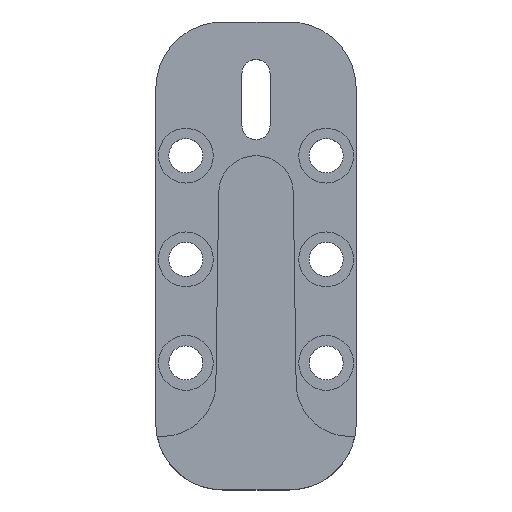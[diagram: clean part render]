
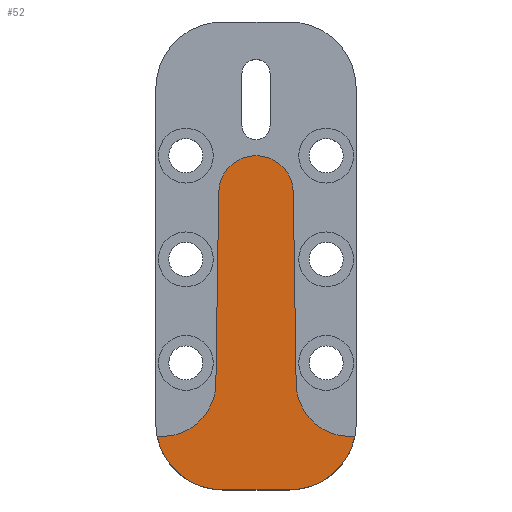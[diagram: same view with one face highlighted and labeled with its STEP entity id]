
A CAD part, top view. The second image highlights one B-rep face of the part: STEP entity #52.
In plain terms, the highlighted planar face has unit normal (0, 0, 1).
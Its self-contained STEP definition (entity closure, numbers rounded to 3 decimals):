
#19 = CIRCLE ( 'NONE', #66, 10. ) ;
#52 = ADVANCED_FACE ( 'NONE', ( #1538 ), #309, .F. ) ;
#66 = AXIS2_PLACEMENT_3D ( 'NONE', #1503, #712, #1632 ) ;
#114 = AXIS2_PLACEMENT_3D ( 'NONE', #1451, #655, #1580 ) ;
#121 = VERTEX_POINT ( 'NONE', #1644 ) ;
#136 = VECTOR ( 'NONE', #1213, 1000. ) ;
#172 = CARTESIAN_POINT ( 'NONE',  ( 14.001, 18., 10. ) ) ;
#201 = AXIS2_PLACEMENT_3D ( 'NONE', #258, #1193, #397 ) ;
#215 = VERTEX_POINT ( 'NONE', #1316 ) ;
#217 = AXIS2_PLACEMENT_3D ( 'NONE', #977, #843, #1238 ) ;
#221 = CARTESIAN_POINT ( 'NONE',  ( 14.001, 26., 10. ) ) ;
#258 = CARTESIAN_POINT ( 'NONE',  ( 5., 20., 10. ) ) ;
#274 = DIRECTION ( 'NONE',  ( -1., 0., 0. ) ) ;
#279 = CARTESIAN_POINT ( 'NONE',  ( 5.579, 54.501, 10. ) ) ;
#289 = DIRECTION ( 'NONE',  ( 0., 0., 1. ) ) ;
#293 = AXIS2_PLACEMENT_3D ( 'NONE', #1089, #289, #1219 ) ;
#307 = CARTESIAN_POINT ( 'NONE',  ( 6.002, 25.882, 10. ) ) ;
#309 = PLANE ( 'NONE',  #217 ) ;
#350 = DIRECTION ( 'NONE',  ( 1., 0., 0. ) ) ;
#358 = ORIENTED_EDGE ( 'NONE', *, *, #1174, .F. ) ;
#397 = DIRECTION ( 'NONE',  ( -1., 0., 0. ) ) ;
#402 = LINE ( 'NONE', #817, #1462 ) ;
#409 = LINE ( 'NONE', #172, #1121 ) ;
#453 = EDGE_CURVE ( 'NONE', #632, #859, #409, .T. ) ;
#492 = EDGE_CURVE ( 'NONE', #939, #1264, #19, .T. ) ;
#499 = VERTEX_POINT ( 'NONE', #307 ) ;
#544 = ORIENTED_EDGE ( 'NONE', *, *, #973, .T. ) ;
#582 = ORIENTED_EDGE ( 'NONE', *, *, #1254, .T. ) ;
#593 = CARTESIAN_POINT ( 'NONE',  ( -14.798, 18., 10. ) ) ;
#632 = VERTEX_POINT ( 'NONE', #876 ) ;
#655 = DIRECTION ( 'NONE',  ( 0., 0., -1. ) ) ;
#662 = VECTOR ( 'NONE', #875, 1000. ) ;
#667 = CARTESIAN_POINT ( 'NONE',  ( -5., 10., 10. ) ) ;
#712 = DIRECTION ( 'NONE',  ( 0., 0., 1. ) ) ;
#714 = ORIENTED_EDGE ( 'NONE', *, *, #1394, .F. ) ;
#755 = EDGE_CURVE ( 'NONE', #865, #121, #962, .T. ) ;
#778 = ORIENTED_EDGE ( 'NONE', *, *, #453, .F. ) ;
#798 = LINE ( 'NONE', #279, #136 ) ;
#817 = CARTESIAN_POINT ( 'NONE',  ( -6.002, 25.882, 10. ) ) ;
#843 = DIRECTION ( 'NONE',  ( 0., 0., -1. ) ) ;
#859 = VERTEX_POINT ( 'NONE', #1502 ) ;
#865 = VERTEX_POINT ( 'NONE', #1631 ) ;
#875 = DIRECTION ( 'NONE',  ( 1., 0., 0. ) ) ;
#876 = CARTESIAN_POINT ( 'NONE',  ( 14.001, 18., 10. ) ) ;
#918 = VERTEX_POINT ( 'NONE', #1248 ) ;
#939 = VERTEX_POINT ( 'NONE', #593 ) ;
#945 = CARTESIAN_POINT ( 'NONE',  ( -14.001, 18., 10. ) ) ;
#960 = ORIENTED_EDGE ( 'NONE', *, *, #492, .T. ) ;
#962 = CIRCLE ( 'NONE', #293, 8. ) ;
#973 = EDGE_CURVE ( 'NONE', #1264, #1028, #1023, .T. ) ;
#977 = CARTESIAN_POINT ( 'NONE',  ( 0., 0., 10. ) ) ;
#1005 = ORIENTED_EDGE ( 'NONE', *, *, #1277, .F. ) ;
#1023 = LINE ( 'NONE', #1656, #662 ) ;
#1028 = VERTEX_POINT ( 'NONE', #1548 ) ;
#1045 = EDGE_LOOP ( 'NONE', ( #582, #960, #544, #1075, #778, #714, #1005, #358, #1665, #1592 ) ) ;
#1075 = ORIENTED_EDGE ( 'NONE', *, *, #1191, .T. ) ;
#1089 = CARTESIAN_POINT ( 'NONE',  ( -14.001, 26., 10. ) ) ;
#1100 = DIRECTION ( 'NONE',  ( 1., 0., 0. ) ) ;
#1121 = VECTOR ( 'NONE', #1100, 1000. ) ;
#1150 = DIRECTION ( 'NONE',  ( 0., 0., 1. ) ) ;
#1174 = EDGE_CURVE ( 'NONE', #918, #215, #1354, .T. ) ;
#1191 = EDGE_CURVE ( 'NONE', #1028, #859, #1627, .T. ) ;
#1192 = LINE ( 'NONE', #945, #1546 ) ;
#1193 = DIRECTION ( 'NONE',  ( 0., 0., 1. ) ) ;
#1213 = DIRECTION ( 'NONE',  ( 0.015, -1., 0. ) ) ;
#1219 = DIRECTION ( 'NONE',  ( 1., 0., 0. ) ) ;
#1238 = DIRECTION ( 'NONE',  ( -1., 0., 0. ) ) ;
#1248 = CARTESIAN_POINT ( 'NONE',  ( -5.581, 54.5, 10. ) ) ;
#1254 = EDGE_CURVE ( 'NONE', #865, #939, #1192, .T. ) ;
#1264 = VERTEX_POINT ( 'NONE', #667 ) ;
#1267 = AXIS2_PLACEMENT_3D ( 'NONE', #221, #1150, #350 ) ;
#1277 = EDGE_CURVE ( 'NONE', #215, #499, #798, .T. ) ;
#1316 = CARTESIAN_POINT ( 'NONE',  ( 5.579, 54.501, 10. ) ) ;
#1317 = EDGE_CURVE ( 'NONE', #121, #918, #402, .T. ) ;
#1354 = CIRCLE ( 'NONE', #114, 5.581 ) ;
#1374 = CIRCLE ( 'NONE', #1267, 8. ) ;
#1394 = EDGE_CURVE ( 'NONE', #499, #632, #1374, .T. ) ;
#1451 = CARTESIAN_POINT ( 'NONE',  ( -0.001, 54.418, 10. ) ) ;
#1462 = VECTOR ( 'NONE', #1484, 1000. ) ;
#1484 = DIRECTION ( 'NONE',  ( 0.015, 1., 0. ) ) ;
#1502 = CARTESIAN_POINT ( 'NONE',  ( 14.798, 18., 10. ) ) ;
#1503 = CARTESIAN_POINT ( 'NONE',  ( -5., 20., 10. ) ) ;
#1538 = FACE_OUTER_BOUND ( 'NONE', #1045, .T. ) ;
#1546 = VECTOR ( 'NONE', #274, 1000. ) ;
#1548 = CARTESIAN_POINT ( 'NONE',  ( 5., 10., 10. ) ) ;
#1580 = DIRECTION ( 'NONE',  ( -1., 0., 0. ) ) ;
#1592 = ORIENTED_EDGE ( 'NONE', *, *, #755, .F. ) ;
#1627 = CIRCLE ( 'NONE', #201, 10. ) ;
#1631 = CARTESIAN_POINT ( 'NONE',  ( -14.001, 18., 10. ) ) ;
#1632 = DIRECTION ( 'NONE',  ( -1., 0., 0. ) ) ;
#1644 = CARTESIAN_POINT ( 'NONE',  ( -6.002, 25.882, 10. ) ) ;
#1656 = CARTESIAN_POINT ( 'NONE',  ( -15., 10., 10. ) ) ;
#1665 = ORIENTED_EDGE ( 'NONE', *, *, #1317, .F. ) ;
